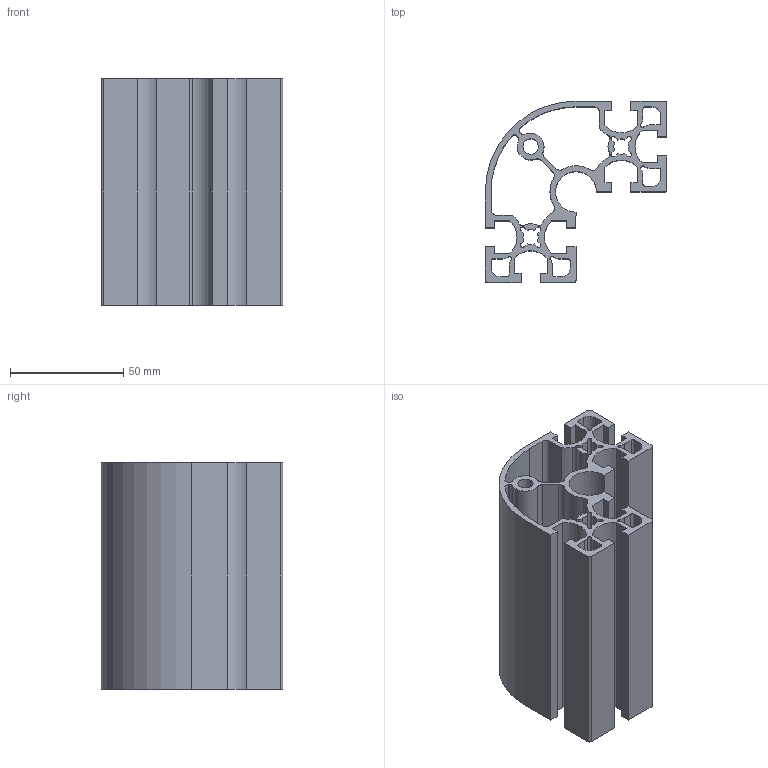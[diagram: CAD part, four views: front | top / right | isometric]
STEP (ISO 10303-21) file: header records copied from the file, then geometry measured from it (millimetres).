
FILE_DESCRIPTION (( 'STEP AP203' ), '1' );
FILE_NAME ('WSR8840-8.STEP', '2024-02-19T05:32:58', ( '' ), ( '' ), 'SwSTEP 2.0', 'SolidWorks 2022', '' );
FILE_SCHEMA (( 'CONFIG_CONTROL_DESIGN' ));
Length unit declared in the file: millimetre
Products named in the file (1): WSR8840-8
Bounding box: 80 x 80 x 100 mm (x, y, z)
Volume: 136699.4 mm3; surface area: 102476.8 mm2
Topology: 1 solids, 1 shells, 201 faces, 597 edges, 398 vertices
Faces by surface type: cylinder 107, plane 94
Entity records: 6918 total; most frequent: DIRECTION 1215, CARTESIAN_POINT 1197, ORIENTED_EDGE 1194, EDGE_CURVE 597, AXIS2_PLACEMENT_3D 416, VERTEX_POINT 398, LINE 383, VECTOR 383
